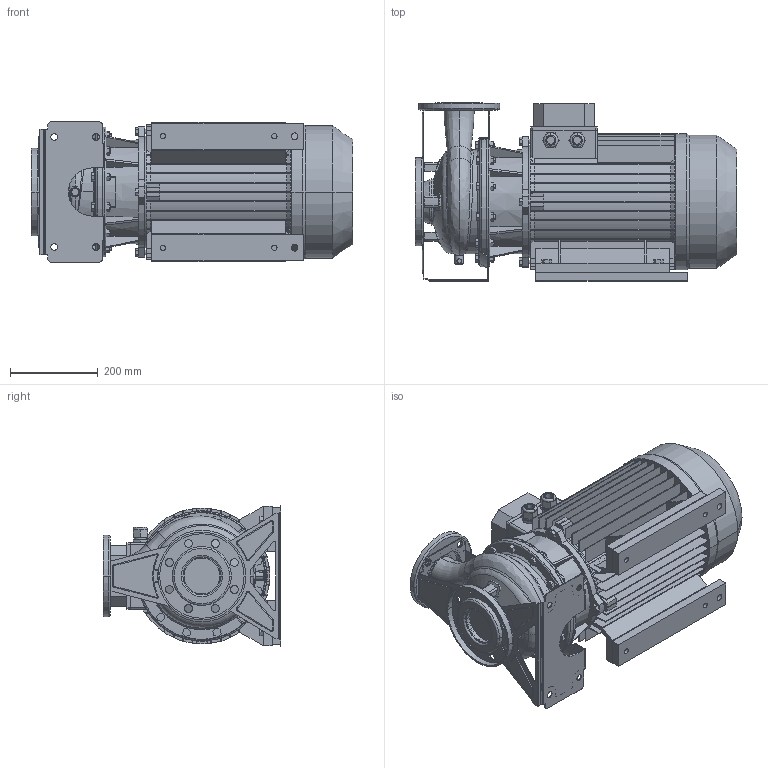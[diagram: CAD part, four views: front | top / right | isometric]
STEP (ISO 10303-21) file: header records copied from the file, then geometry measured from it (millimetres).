
FILE_DESCRIPTION((''),'2;1');
FILE_NAME('3M_65-200_22_IE2_ASM','2011-04-22T',('Utente'),('"Ebara Pumps Europe +39.444.706811"'),'PRO/ENGINEER BY PARAMETRIC TECHNOLOGY CORPORATION, 2009360','PRO/ENGINEER BY PARAMETRIC TECHNOLOGY CORPORATION, 2009360','');
FILE_SCHEMA(('AUTOMOTIVE_DESIGN { 1 0 10303 214 1 1 1 1 }'));
Length unit declared in the file: millimetre
Products named in the file (12): CORPO_65-200; ASP_65-200; FLANGIA_DIN_80_8_FORI; MAND_65-200; FLANGIA_DIN_65; BASE_3M_65-200; CORPO_SALDATO_65-200_ASM; SUPPORTO_3M_230_160_H109; MEC_160X170_210_250_IE2; SOSTEGNO_72095; TESTA_VITE_TE_M12; 3M_65-200_22_IE2_ASM
Assembly tree (15 placements, depth 3):
  3M_65-200_22_IE2_ASM
    CORPO_SALDATO_65-200_ASM
      CORPO_65-200
      ASP_65-200
      FLANGIA_DIN_80_8_FORI
      MAND_65-200
      FLANGIA_DIN_65
      BASE_3M_65-200
    SUPPORTO_3M_230_160_H109
    MEC_160X170_210_250_IE2
    SOSTEGNO_72095  x2
    TESTA_VITE_TE_M12  x4
Bounding box: 732 x 405 x 320 mm (x, y, z)
Volume: 26694992.9 mm3; surface area: 2789352.5 mm2
Topology: 17 solids, 19 shells, 1336 faces, 3395 edges, 2176 vertices
Faces by surface type: plane 774, cylinder 365, cone 96, torus 62, bspline 33, sphere 6
Entity records: 49661 total; most frequent: CARTESIAN_POINT 10786, DIRECTION 6740, ORIENTED_EDGE 6586, EDGE_CURVE 3293, AXIS2_PLACEMENT_3D 2377, VERTEX_POINT 2108, VECTOR 1986, LINE 1986
